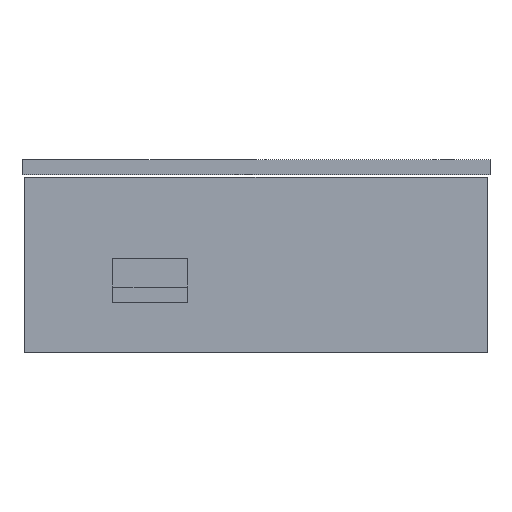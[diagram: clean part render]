
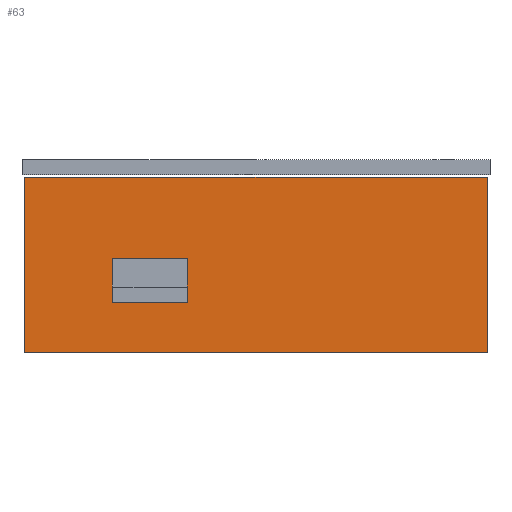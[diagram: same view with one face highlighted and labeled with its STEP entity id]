
A CAD part, left-side view. The second image highlights one B-rep face of the part: STEP entity #63.
In plain terms, the highlighted planar face has unit normal (-1, 0, 0).
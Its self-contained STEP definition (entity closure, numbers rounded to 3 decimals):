
#63 = ADVANCED_FACE('',(#64,#183),#78,.F.);
#64 = FACE_BOUND('',#65,.F.);
#65 = EDGE_LOOP('',(#66,#101,#129,#157));
#66 = ORIENTED_EDGE('',*,*,#67,.F.);
#67 = EDGE_CURVE('',#68,#70,#72,.T.);
#68 = VERTEX_POINT('',#69);
#69 = CARTESIAN_POINT('',(0.,0.,0.));
#70 = VERTEX_POINT('',#71);
#71 = CARTESIAN_POINT('',(0.,0.,28.));
#72 = SURFACE_CURVE('',#73,(#77,#89),.PCURVE_S1.);
#73 = LINE('',#74,#75);
#74 = CARTESIAN_POINT('',(0.,0.,0.));
#75 = VECTOR('',#76,1.);
#76 = DIRECTION('',(0.,0.,1.));
#77 = PCURVE('',#78,#83);
#78 = PLANE('',#79);
#79 = AXIS2_PLACEMENT_3D('',#80,#81,#82);
#80 = CARTESIAN_POINT('',(0.,0.,0.));
#81 = DIRECTION('',(1.,0.,-0.));
#82 = DIRECTION('',(0.,0.,1.));
#83 = DEFINITIONAL_REPRESENTATION('',(#84),#88);
#84 = LINE('',#85,#86);
#85 = CARTESIAN_POINT('',(0.,0.));
#86 = VECTOR('',#87,1.);
#87 = DIRECTION('',(1.,0.));
#88 = ( GEOMETRIC_REPRESENTATION_CONTEXT(2) 
PARAMETRIC_REPRESENTATION_CONTEXT() REPRESENTATION_CONTEXT('2D SPACE',''
  ) );
#89 = PCURVE('',#90,#95);
#90 = PLANE('',#91);
#91 = AXIS2_PLACEMENT_3D('',#92,#93,#94);
#92 = CARTESIAN_POINT('',(0.,0.,0.));
#93 = DIRECTION('',(-0.,1.,0.));
#94 = DIRECTION('',(0.,0.,1.));
#95 = DEFINITIONAL_REPRESENTATION('',(#96),#100);
#96 = LINE('',#97,#98);
#97 = CARTESIAN_POINT('',(0.,0.));
#98 = VECTOR('',#99,1.);
#99 = DIRECTION('',(1.,0.));
#100 = ( GEOMETRIC_REPRESENTATION_CONTEXT(2) 
PARAMETRIC_REPRESENTATION_CONTEXT() REPRESENTATION_CONTEXT('2D SPACE',''
  ) );
#101 = ORIENTED_EDGE('',*,*,#102,.T.);
#102 = EDGE_CURVE('',#68,#103,#105,.T.);
#103 = VERTEX_POINT('',#104);
#104 = CARTESIAN_POINT('',(0.,74.,0.));
#105 = SURFACE_CURVE('',#106,(#110,#117),.PCURVE_S1.);
#106 = LINE('',#107,#108);
#107 = CARTESIAN_POINT('',(0.,0.,0.));
#108 = VECTOR('',#109,1.);
#109 = DIRECTION('',(-0.,1.,0.));
#110 = PCURVE('',#78,#111);
#111 = DEFINITIONAL_REPRESENTATION('',(#112),#116);
#112 = LINE('',#113,#114);
#113 = CARTESIAN_POINT('',(0.,0.));
#114 = VECTOR('',#115,1.);
#115 = DIRECTION('',(0.,-1.));
#116 = ( GEOMETRIC_REPRESENTATION_CONTEXT(2) 
PARAMETRIC_REPRESENTATION_CONTEXT() REPRESENTATION_CONTEXT('2D SPACE',''
  ) );
#117 = PCURVE('',#118,#123);
#118 = PLANE('',#119);
#119 = AXIS2_PLACEMENT_3D('',#120,#121,#122);
#120 = CARTESIAN_POINT('',(0.,0.,0.));
#121 = DIRECTION('',(0.,0.,1.));
#122 = DIRECTION('',(1.,0.,-0.));
#123 = DEFINITIONAL_REPRESENTATION('',(#124),#128);
#124 = LINE('',#125,#126);
#125 = CARTESIAN_POINT('',(0.,0.));
#126 = VECTOR('',#127,1.);
#127 = DIRECTION('',(0.,1.));
#128 = ( GEOMETRIC_REPRESENTATION_CONTEXT(2) 
PARAMETRIC_REPRESENTATION_CONTEXT() REPRESENTATION_CONTEXT('2D SPACE',''
  ) );
#129 = ORIENTED_EDGE('',*,*,#130,.T.);
#130 = EDGE_CURVE('',#103,#131,#133,.T.);
#131 = VERTEX_POINT('',#132);
#132 = CARTESIAN_POINT('',(0.,74.,28.));
#133 = SURFACE_CURVE('',#134,(#138,#145),.PCURVE_S1.);
#134 = LINE('',#135,#136);
#135 = CARTESIAN_POINT('',(0.,74.,0.));
#136 = VECTOR('',#137,1.);
#137 = DIRECTION('',(0.,0.,1.));
#138 = PCURVE('',#78,#139);
#139 = DEFINITIONAL_REPRESENTATION('',(#140),#144);
#140 = LINE('',#141,#142);
#141 = CARTESIAN_POINT('',(0.,-74.));
#142 = VECTOR('',#143,1.);
#143 = DIRECTION('',(1.,0.));
#144 = ( GEOMETRIC_REPRESENTATION_CONTEXT(2) 
PARAMETRIC_REPRESENTATION_CONTEXT() REPRESENTATION_CONTEXT('2D SPACE',''
  ) );
#145 = PCURVE('',#146,#151);
#146 = PLANE('',#147);
#147 = AXIS2_PLACEMENT_3D('',#148,#149,#150);
#148 = CARTESIAN_POINT('',(0.,74.,0.));
#149 = DIRECTION('',(-0.,1.,0.));
#150 = DIRECTION('',(0.,0.,1.));
#151 = DEFINITIONAL_REPRESENTATION('',(#152),#156);
#152 = LINE('',#153,#154);
#153 = CARTESIAN_POINT('',(0.,0.));
#154 = VECTOR('',#155,1.);
#155 = DIRECTION('',(1.,0.));
#156 = ( GEOMETRIC_REPRESENTATION_CONTEXT(2) 
PARAMETRIC_REPRESENTATION_CONTEXT() REPRESENTATION_CONTEXT('2D SPACE',''
  ) );
#157 = ORIENTED_EDGE('',*,*,#158,.F.);
#158 = EDGE_CURVE('',#70,#131,#159,.T.);
#159 = SURFACE_CURVE('',#160,(#164,#171),.PCURVE_S1.);
#160 = LINE('',#161,#162);
#161 = CARTESIAN_POINT('',(0.,0.,28.));
#162 = VECTOR('',#163,1.);
#163 = DIRECTION('',(-0.,1.,0.));
#164 = PCURVE('',#78,#165);
#165 = DEFINITIONAL_REPRESENTATION('',(#166),#170);
#166 = LINE('',#167,#168);
#167 = CARTESIAN_POINT('',(28.,0.));
#168 = VECTOR('',#169,1.);
#169 = DIRECTION('',(0.,-1.));
#170 = ( GEOMETRIC_REPRESENTATION_CONTEXT(2) 
PARAMETRIC_REPRESENTATION_CONTEXT() REPRESENTATION_CONTEXT('2D SPACE',''
  ) );
#171 = PCURVE('',#172,#177);
#172 = PLANE('',#173);
#173 = AXIS2_PLACEMENT_3D('',#174,#175,#176);
#174 = CARTESIAN_POINT('',(0.,0.,28.));
#175 = DIRECTION('',(0.,0.,1.));
#176 = DIRECTION('',(1.,0.,-0.));
#177 = DEFINITIONAL_REPRESENTATION('',(#178),#182);
#178 = LINE('',#179,#180);
#179 = CARTESIAN_POINT('',(0.,0.));
#180 = VECTOR('',#181,1.);
#181 = DIRECTION('',(0.,1.));
#182 = ( GEOMETRIC_REPRESENTATION_CONTEXT(2) 
PARAMETRIC_REPRESENTATION_CONTEXT() REPRESENTATION_CONTEXT('2D SPACE',''
  ) );
#183 = FACE_BOUND('',#184,.F.);
#184 = EDGE_LOOP('',(#185,#213,#239,#265));
#185 = ORIENTED_EDGE('',*,*,#186,.T.);
#186 = EDGE_CURVE('',#187,#189,#191,.T.);
#187 = VERTEX_POINT('',#188);
#188 = CARTESIAN_POINT('',(0.,60.,8.));
#189 = VERTEX_POINT('',#190);
#190 = CARTESIAN_POINT('',(0.,48.,8.));
#191 = SURFACE_CURVE('',#192,(#196,#202),.PCURVE_S1.);
#192 = LINE('',#193,#194);
#193 = CARTESIAN_POINT('',(0.,24.,8.));
#194 = VECTOR('',#195,1.);
#195 = DIRECTION('',(0.,-1.,0.));
#196 = PCURVE('',#78,#197);
#197 = DEFINITIONAL_REPRESENTATION('',(#198),#201);
#198 = B_SPLINE_CURVE_WITH_KNOTS('',1,(#199,#200),.UNSPECIFIED.,.F.,.F.,
  (2,2),(-36.,-24.),.PIECEWISE_BEZIER_KNOTS.);
#199 = CARTESIAN_POINT('',(8.,-60.));
#200 = CARTESIAN_POINT('',(8.,-48.));
#201 = ( GEOMETRIC_REPRESENTATION_CONTEXT(2) 
PARAMETRIC_REPRESENTATION_CONTEXT() REPRESENTATION_CONTEXT('2D SPACE',''
  ) );
#202 = PCURVE('',#203,#208);
#203 = PLANE('',#204);
#204 = AXIS2_PLACEMENT_3D('',#205,#206,#207);
#205 = CARTESIAN_POINT('',(-1.,48.,8.));
#206 = DIRECTION('',(0.,0.,1.));
#207 = DIRECTION('',(1.,0.,-0.));
#208 = DEFINITIONAL_REPRESENTATION('',(#209),#212);
#209 = B_SPLINE_CURVE_WITH_KNOTS('',1,(#210,#211),.UNSPECIFIED.,.F.,.F.,
  (2,2),(-36.,-24.),.PIECEWISE_BEZIER_KNOTS.);
#210 = CARTESIAN_POINT('',(1.,12.));
#211 = CARTESIAN_POINT('',(1.,0.));
#212 = ( GEOMETRIC_REPRESENTATION_CONTEXT(2) 
PARAMETRIC_REPRESENTATION_CONTEXT() REPRESENTATION_CONTEXT('2D SPACE',''
  ) );
#213 = ORIENTED_EDGE('',*,*,#214,.T.);
#214 = EDGE_CURVE('',#189,#215,#217,.T.);
#215 = VERTEX_POINT('',#216);
#216 = CARTESIAN_POINT('',(0.,48.,15.));
#217 = SURFACE_CURVE('',#218,(#222,#228),.PCURVE_S1.);
#218 = LINE('',#219,#220);
#219 = CARTESIAN_POINT('',(0.,48.,4.));
#220 = VECTOR('',#221,1.);
#221 = DIRECTION('',(0.,0.,1.));
#222 = PCURVE('',#78,#223);
#223 = DEFINITIONAL_REPRESENTATION('',(#224),#227);
#224 = B_SPLINE_CURVE_WITH_KNOTS('',1,(#225,#226),.UNSPECIFIED.,.F.,.F.,
  (2,2),(4.,11.),.PIECEWISE_BEZIER_KNOTS.);
#225 = CARTESIAN_POINT('',(8.,-48.));
#226 = CARTESIAN_POINT('',(15.,-48.));
#227 = ( GEOMETRIC_REPRESENTATION_CONTEXT(2) 
PARAMETRIC_REPRESENTATION_CONTEXT() REPRESENTATION_CONTEXT('2D SPACE',''
  ) );
#228 = PCURVE('',#229,#234);
#229 = PLANE('',#230);
#230 = AXIS2_PLACEMENT_3D('',#231,#232,#233);
#231 = CARTESIAN_POINT('',(-1.,48.,8.));
#232 = DIRECTION('',(-0.,1.,0.));
#233 = DIRECTION('',(0.,0.,1.));
#234 = DEFINITIONAL_REPRESENTATION('',(#235),#238);
#235 = B_SPLINE_CURVE_WITH_KNOTS('',1,(#236,#237),.UNSPECIFIED.,.F.,.F.,
  (2,2),(4.,11.),.PIECEWISE_BEZIER_KNOTS.);
#236 = CARTESIAN_POINT('',(0.,1.));
#237 = CARTESIAN_POINT('',(7.,1.));
#238 = ( GEOMETRIC_REPRESENTATION_CONTEXT(2) 
PARAMETRIC_REPRESENTATION_CONTEXT() REPRESENTATION_CONTEXT('2D SPACE',''
  ) );
#239 = ORIENTED_EDGE('',*,*,#240,.F.);
#240 = EDGE_CURVE('',#241,#215,#243,.T.);
#241 = VERTEX_POINT('',#242);
#242 = CARTESIAN_POINT('',(0.,60.,15.));
#243 = SURFACE_CURVE('',#244,(#248,#254),.PCURVE_S1.);
#244 = LINE('',#245,#246);
#245 = CARTESIAN_POINT('',(0.,24.,15.));
#246 = VECTOR('',#247,1.);
#247 = DIRECTION('',(0.,-1.,0.));
#248 = PCURVE('',#78,#249);
#249 = DEFINITIONAL_REPRESENTATION('',(#250),#253);
#250 = B_SPLINE_CURVE_WITH_KNOTS('',1,(#251,#252),.UNSPECIFIED.,.F.,.F.,
  (2,2),(-36.,-24.),.PIECEWISE_BEZIER_KNOTS.);
#251 = CARTESIAN_POINT('',(15.,-60.));
#252 = CARTESIAN_POINT('',(15.,-48.));
#253 = ( GEOMETRIC_REPRESENTATION_CONTEXT(2) 
PARAMETRIC_REPRESENTATION_CONTEXT() REPRESENTATION_CONTEXT('2D SPACE',''
  ) );
#254 = PCURVE('',#255,#260);
#255 = PLANE('',#256);
#256 = AXIS2_PLACEMENT_3D('',#257,#258,#259);
#257 = CARTESIAN_POINT('',(-1.,48.,15.));
#258 = DIRECTION('',(0.,0.,1.));
#259 = DIRECTION('',(1.,0.,-0.));
#260 = DEFINITIONAL_REPRESENTATION('',(#261),#264);
#261 = B_SPLINE_CURVE_WITH_KNOTS('',1,(#262,#263),.UNSPECIFIED.,.F.,.F.,
  (2,2),(-36.,-24.),.PIECEWISE_BEZIER_KNOTS.);
#262 = CARTESIAN_POINT('',(1.,12.));
#263 = CARTESIAN_POINT('',(1.,0.));
#264 = ( GEOMETRIC_REPRESENTATION_CONTEXT(2) 
PARAMETRIC_REPRESENTATION_CONTEXT() REPRESENTATION_CONTEXT('2D SPACE',''
  ) );
#265 = ORIENTED_EDGE('',*,*,#266,.F.);
#266 = EDGE_CURVE('',#187,#241,#267,.T.);
#267 = SURFACE_CURVE('',#268,(#272,#278),.PCURVE_S1.);
#268 = LINE('',#269,#270);
#269 = CARTESIAN_POINT('',(0.,60.,4.));
#270 = VECTOR('',#271,1.);
#271 = DIRECTION('',(0.,0.,1.));
#272 = PCURVE('',#78,#273);
#273 = DEFINITIONAL_REPRESENTATION('',(#274),#277);
#274 = B_SPLINE_CURVE_WITH_KNOTS('',1,(#275,#276),.UNSPECIFIED.,.F.,.F.,
  (2,2),(4.,11.),.PIECEWISE_BEZIER_KNOTS.);
#275 = CARTESIAN_POINT('',(8.,-60.));
#276 = CARTESIAN_POINT('',(15.,-60.));
#277 = ( GEOMETRIC_REPRESENTATION_CONTEXT(2) 
PARAMETRIC_REPRESENTATION_CONTEXT() REPRESENTATION_CONTEXT('2D SPACE',''
  ) );
#278 = PCURVE('',#279,#284);
#279 = PLANE('',#280);
#280 = AXIS2_PLACEMENT_3D('',#281,#282,#283);
#281 = CARTESIAN_POINT('',(-1.,60.,8.));
#282 = DIRECTION('',(-0.,1.,0.));
#283 = DIRECTION('',(0.,0.,1.));
#284 = DEFINITIONAL_REPRESENTATION('',(#285),#288);
#285 = B_SPLINE_CURVE_WITH_KNOTS('',1,(#286,#287),.UNSPECIFIED.,.F.,.F.,
  (2,2),(4.,11.),.PIECEWISE_BEZIER_KNOTS.);
#286 = CARTESIAN_POINT('',(0.,1.));
#287 = CARTESIAN_POINT('',(7.,1.));
#288 = ( GEOMETRIC_REPRESENTATION_CONTEXT(2) 
PARAMETRIC_REPRESENTATION_CONTEXT() REPRESENTATION_CONTEXT('2D SPACE',''
  ) );
